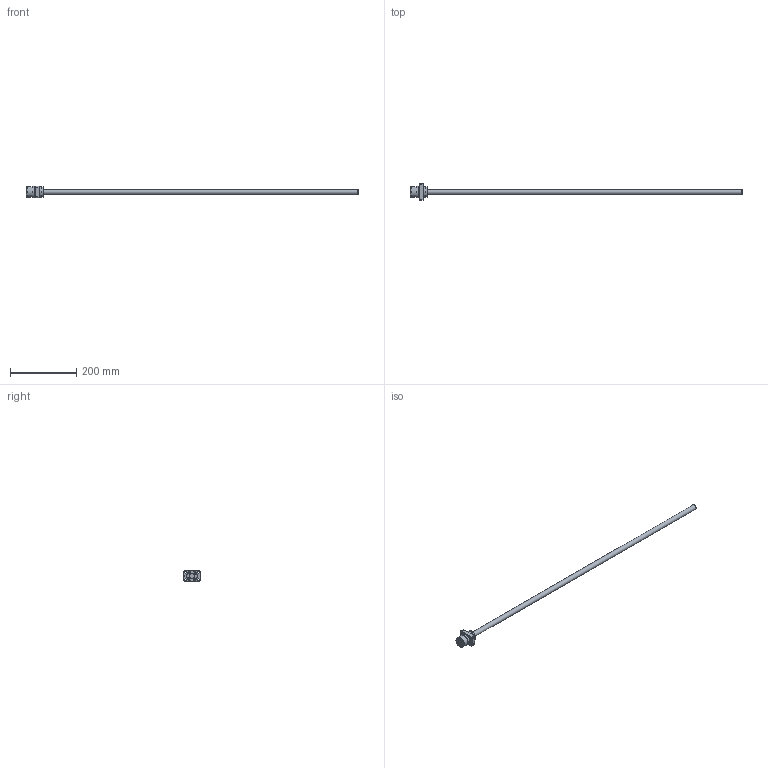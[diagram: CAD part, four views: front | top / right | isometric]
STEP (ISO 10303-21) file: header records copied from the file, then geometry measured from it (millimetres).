
FILE_DESCRIPTION( ( 'STEP AP203' ), '1' );
FILE_NAME( 'e:/temp/worker_101/temp/exporttempdir_1584_1811_WNVQQ/format_0/SR1520-1000R1000C10(0).stp', '2021-10-19T04:04:25', ( 'License CC BY-ND 4.0' ), ( 'CADENAS' ), ' ', 'PARTsolutions', ' ' );
FILE_SCHEMA( ( 'CONFIG_CONTROL_DESIGN' ) );
Length unit declared in the file: millimetre
Products named in the file (3): SR1520-1000R1000C10(0); _SR1520C10(0)_shaft; _SR1520C10_nut
Assembly tree (2 placements, depth 2):
  SR1520-1000R1000C10(0)
    _SR1520C10(0)_shaft
    _SR1520C10_nut
Bounding box: 1000 x 50 x 34 mm (x, y, z)
Volume: 217280.8 mm3; surface area: 60164 mm2
Topology: 2 solids, 2 shells, 97 faces, 219 edges, 144 vertices
Faces by surface type: plane 62, cylinder 30, cone 5
Full cylindrical faces by diameter (mm): 2 x1, 4.917 x1, 5.5 x8, 9.5 x4, 15 x2, 31.5 x2, 32 x2, 33 x1, 34 x1
Entity records: 2734 total; most frequent: CARTESIAN_POINT 467, DIRECTION 460, ORIENTED_EDGE 382, EDGE_CURVE 191, AXIS2_PLACEMENT_3D 170, EDGE_LOOP 154, VERTEX_POINT 143, LINE 120
